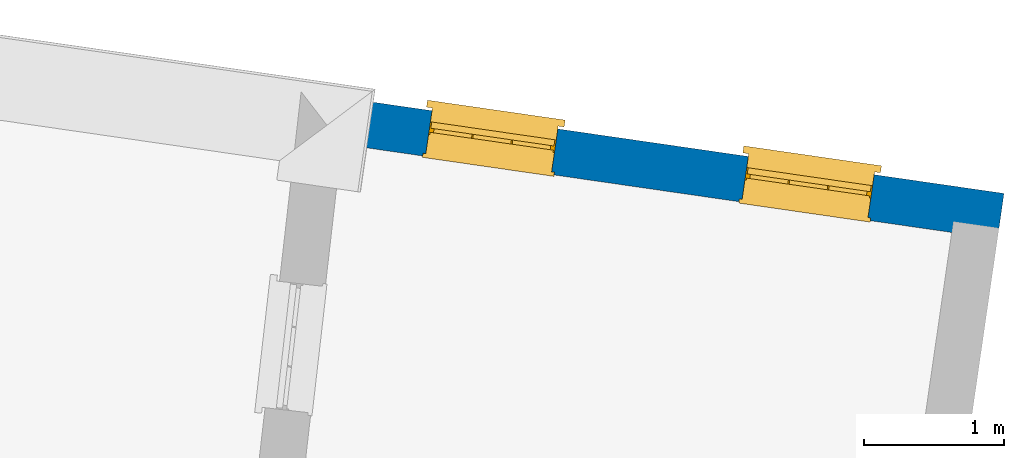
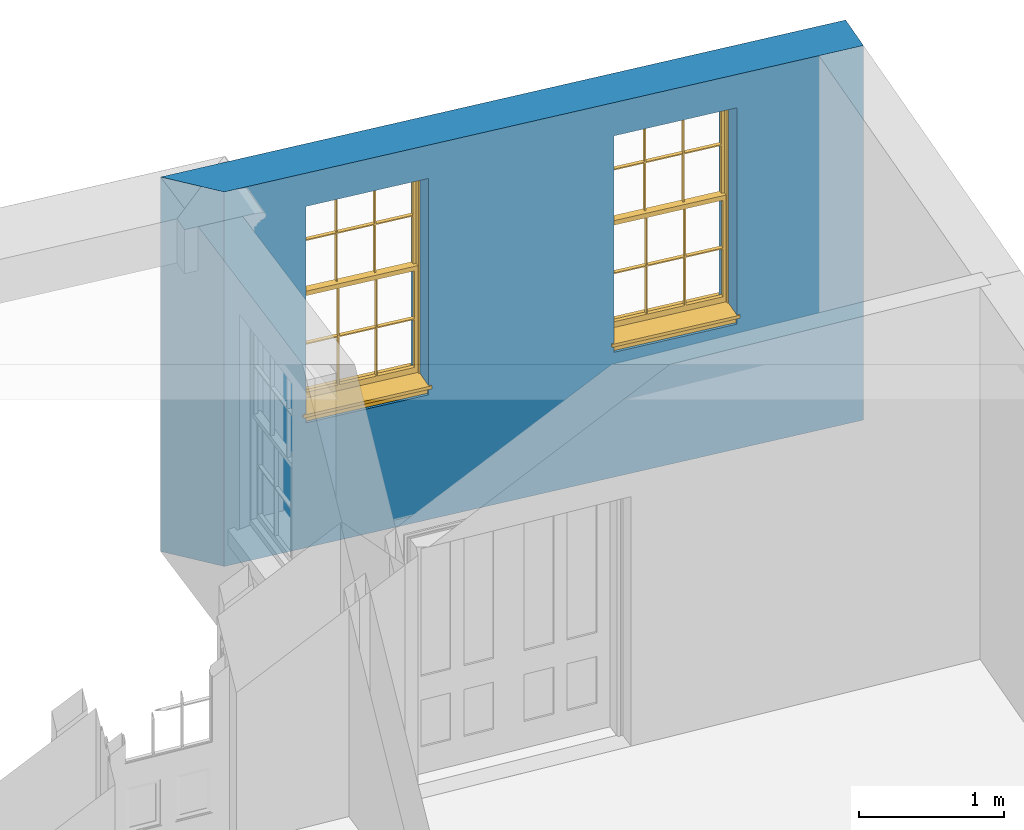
# One storey, part 7 of 8: 2 windows, 1 wall, 2 openings.
"""IFC4 building model written with IfcOpenShell, lengths in metres."""

from ifc_helpers import new_model, si_unit, frame, origin, origin_with_axes, place, context, subcontext, project, spatial, polyline, outline, extrude, faceted_brep, source, transform, mapped, material, layer, layer_set, layer_usage, type_object, type_shapes, element, fill, save


model = new_model("IFC4")

# Units and contexts
model_context = context("Model", 3, world=origin_with_axes())
body_context = subcontext(model_context, "Body", "Model", "MODEL_VIEW")
ifc_project = project(units=[si_unit("PLANEANGLEUNIT", "RADIAN"), si_unit("MASSUNIT", "GRAM", prefix="KILO"), si_unit("FORCEUNIT", "NEWTON", prefix="KILO"), si_unit("LENGTHUNIT", "METRE"), si_unit("AREAUNIT", "SQUARE_METRE"), si_unit("VOLUMEUNIT", "CUBIC_METRE")], contexts=[model_context, model_context])

# Sites, building, storey
site_1_placement = place(None, origin_with_axes())
site_1 = spatial("IfcSite", under=ifc_project, at=site_1_placement, Name="Tamar")
site_2_placement = place(site_1_placement, origin_with_axes())
site_2 = spatial("IfcSite", under=site_1, at=site_2_placement, Name="Site plot-31", CompositionType="ELEMENT")
building_placement = place(None, origin_with_axes())
building = spatial("IfcBuilding", under=site_2, at=building_placement, Name="Building plot-31", CompositionType="ELEMENT")
storey_placement = place(None, frame((0.0, 0.0, 25.5), z_axis=(0.0, 0.0, 1.0), x_axis=(1.0, 0.0, 0.0)))
storey = spatial("IfcBuildingStorey", under=building, at=storey_placement, Name="plot-31 0", CompositionType="ELEMENT", Elevation=25.5)

# Wall, openings, windows
ifc_material = material(Name="Masonry")
ifc_layer = layer(ifc_material, 0.33, ventilated=False)
ifc_layer_set = layer_set([ifc_layer], Name="exterior_0.08_0.25")
ifc_layer_usage = layer_usage(ifc_layer_set, "AXIS2", "POSITIVE", -0.25)
wall_type = type_object("IfcWallType", Name="exterior_0.08_0.25", PredefinedType="SOLIDWALL", material=ifc_layer_set)
wall_placement = place(storey_placement, frame((300.849616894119, 263.500744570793, 0.0), z_axis=(0.0, 0.0, 1.0), x_axis=(-0.989705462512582, 0.14311917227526, 0.0)))
wall = element("IfcWall", 1, at=wall_placement, inside=storey, type_object=wall_type, material=ifc_layer_usage, Name="exterior", context=body_context, shape_type="SweptSolid", body=[
    extrude(outline(polyline([(-0.250000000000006, 0.0799999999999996), (-0.249999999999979, -0.250000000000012), (4.83208334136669, -0.250000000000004), (4.49207579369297, 0.0800000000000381), (-0.250000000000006, 0.0799999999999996)])), origin_with_axes(), (0.0, 0.0, 1.0), 3.15),
])
opening_1_placement = place(wall_placement, frame((0.688625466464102, 0.0, 1.05)))
opening_1 = element("IfcOpeningElement", 2, at=opening_1_placement, cuts=wall, Name="My Opening", ObjectType="Opening", context=body_context, shape_type="SweptSolid", body=[
    extrude(outline(polyline([(0.0, -0.269999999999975), (0.90999999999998, -0.270000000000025), (0.909999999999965, 1.09999999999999), (-1.40998324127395e-14, 1.10000000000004), (0.0, -0.269999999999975)])), origin_with_axes(), (0.0, 0.0, 1.0), 1.82),
])
opening_2_placement = place(wall_placement, frame((2.97587639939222, 0.0, 1.05)))
opening_2 = element("IfcOpeningElement", 3, at=opening_2_placement, cuts=wall, Name="My Opening", ObjectType="Opening", context=body_context, shape_type="SweptSolid", body=[
    extrude(outline(polyline([(0.0, -0.269999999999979), (0.909999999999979, -0.27000000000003), (0.909999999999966, 1.09999999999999), (-1.46549439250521e-14, 1.10000000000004), (0.0, -0.269999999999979)])), origin_with_axes(), (0.0, 0.0, 1.0), 1.82),
])
window_type = type_object("IfcWindowType", Name="sash_big", PartitioningType="DOUBLE_PANEL_HORIZONTAL", PredefinedType="NOTDEFINED")
shared_shape = source(origin(), body_context, "Body", "Brep", [
    faceted_brep([(0.033125, 0.145, 0.975209), (0.01, 0.145, 0.975209), (0.033125, 0.145, 1.376042), (0.876875, 0.145, 0.975209), (0.876875, 0.145, 1.376042), (0.9, 0.145, 0.975209), (0.876875, 0.145, 1.386042), (0.876875, 0.145, 1.786875), (0.9, 0.145, 1.81), (0.033125, 0.145, 1.786875), (0.033125, 0.145, 1.386042), (0.01, 0.145, 1.81), (0.876875, 0.115, 1.376042), (0.876875, 0.115, 0.975209), (0.9, 0.115, 0.937083), (0.033125, 0.115, 1.786875), (0.01, 0.115, 1.81), (0.033125, 0.115, 1.386042), (0.01, 0.115, 0.937083), (0.033125, 0.115, 0.975209), (0.033125, 0.115, 1.376042), (0.876875, 0.115, 1.786875), (0.876875, 0.115, 1.386042), (0.9, 0.115, 1.81), (0.033125, 0.145, 0.937083), (0.01, 0.145, 0.937083), (0.033125, 0.145, 0.53625), (0.876875, 0.145, 0.937083), (0.876875, 0.145, 0.53625), (0.9, 0.145, 0.937083), (0.876875, 0.145, 0.52625), (0.876875, 0.145, 0.125417), (0.9, 0.145, 0.077167), (0.033125, 0.145, 0.125417), (0.033125, 0.145, 0.52625), (0.01, 0.145, 0.077167), (-0.0425, 0.0, 0.01), (-0.0425, -0.05, 0.001667), (0.0, 0.0, 0.01), (0.9525, 0.0, 0.01), (0.91, 0.0, 0.01), (0.9525, -0.05, 0.001667), (-0.02, 0.33, 0.077167), (0.0, 0.33, 0.077167), (-0.02, 0.36, 0.077167), (0.0, 0.19, 0.077167), (0.01, 0.19, 0.077167), (0.91, 0.19, 0.077167), (0.91, 0.33, 0.077167), (0.9, 0.19, 0.077167), (0.93, 0.33, 0.077167), (0.93, 0.36, 0.077167), (0.01, 0.175, 0.975209), (0.9, 0.175, 0.975209), (0.876875, 0.175, 0.125417), (0.876875, 0.175, 0.52625), (0.9, 0.175, 0.077167), (0.876875, 0.175, 0.53625), (0.876875, 0.175, 0.937083), (0.033125, 0.175, 0.125417), (0.01, 0.175, 0.077167), (0.033125, 0.175, 0.52625), (0.033125, 0.175, 0.937083), (0.033125, 0.175, 0.53625), (-0.02, 0.33, 0.052167), (-0.02, 0.36, 0.052167), (0.93, 0.36, 0.052167), (0.93, 0.33, 0.052167), (0.91, 0.33, 0.052167), (0.0, 0.33, 0.052167), (0.91, 0.1, 0.026667), (0.0, 0.1, 0.026667), (-0.0425, -0.05, -0.123333), (0.9525, -0.05, -0.123333), (-0.0425, 0.0, -0.123333), (0.9525, 0.0, -0.123333), (0.01, 0.19, 1.81), (0.9, 0.19, 1.81), (0.0, 0.19, 1.82), (0.91, 0.19, 1.82), (0.01, 0.1, 0.077167), (0.9, 0.1, 0.077167), (0.592292, 0.145, 0.125417), (0.592292, 0.175, 0.125417), (0.317708, 0.175, 0.125417), (0.317708, 0.145, 0.125417), (0.592292, 0.145, 0.53625), (0.317708, 0.145, 0.53625), (0.317708, 0.145, 0.52625), (0.592292, 0.145, 0.52625), (0.592292, 0.175, 0.53625), (0.317708, 0.175, 0.53625), (0.592292, 0.115, 1.386042), (0.592292, 0.145, 1.386042), (0.317708, 0.145, 1.386042), (0.317708, 0.115, 1.386042), (0.317708, 0.115, 1.376042), (0.592292, 0.115, 1.376042), (0.317708, 0.145, 1.376042), (0.592292, 0.145, 1.376042), (0.602292, 0.115, 1.376042), (0.592292, 0.115, 0.975209), (0.602292, 0.115, 0.975209), (0.602292, 0.145, 0.975209), (0.592292, 0.145, 0.975209), (0.602292, 0.145, 1.376042), (0.602292, 0.175, 0.53625), (0.602292, 0.145, 0.53625), (0.317708, 0.175, 0.52625), (0.307708, 0.175, 0.125417), (0.307708, 0.175, 0.52625), (0.602292, 0.175, 0.52625), (0.602292, 0.175, 0.125417), (0.592292, 0.175, 0.52625), (0.307708, 0.175, 0.53625), (0.317708, 0.175, 0.937083), (0.307708, 0.175, 0.937083), (0.602292, 0.175, 0.937083), (0.592292, 0.175, 0.937083), (0.307708, 0.145, 0.52625), (0.307708, 0.145, 0.125417), (0.307708, 0.145, 0.53625), (0.307708, 0.145, 0.937083), (0.592292, 0.145, 0.937083), (0.317708, 0.145, 0.937083), (0.602292, 0.145, 0.937083), (0.602292, 0.145, 0.52625), (0.602292, 0.145, 0.125417), (0.307708, 0.115, 1.386042), (0.307708, 0.115, 1.376042), (0.307708, 0.115, 0.975209), (0.317708, 0.115, 0.975209), (0.317708, 0.115, 1.786875), (0.307708, 0.115, 1.786875), (0.602292, 0.115, 1.786875), (0.592292, 0.115, 1.786875), (0.602292, 0.115, 1.386042), (0.602292, 0.145, 1.386042), (0.307708, 0.145, 1.386042), (0.307708, 0.145, 1.786875), (0.317708, 0.145, 1.786875), (0.592292, 0.145, 1.786875), (0.602292, 0.145, 1.786875), (0.307708, 0.145, 1.376042), (0.317708, 0.145, 0.975209), (0.307708, 0.145, 0.975209), (0.91, 0.1, 1.82), (0.9, 0.1, 1.81), (0.01, 0.1, 1.81), (0.0, 0.1, 1.82), (0.91, 0.0, 0.0), (0.0, 0.0, 0.0), (0.91, 0.33, 0.0), (0.0, 0.33, 0.0)], [[[0, 1, 2]], [[3, 4, 5]], [[6, 7, 8]], [[9, 10, 11]], [[12, 13, 14]], [[15, 16, 17]], [[18, 19, 20]], [[21, 22, 23]], [[24, 25, 26]], [[27, 28, 29]], [[30, 31, 32]], [[33, 34, 35]], [[14, 27, 29]], [[25, 24, 18]], [[36, 37, 38]], [[39, 40, 41]], [[42, 43, 44]], [[45, 46, 43]], [[47, 48, 49]], [[50, 51, 48]], [[1, 0, 52]], [[5, 53, 3]], [[54, 55, 56]], [[57, 58, 53]], [[59, 60, 61]], [[62, 63, 52]], [[48, 43, 46, 49]], [[51, 44, 43, 48]], [[64, 42, 44, 65]], [[65, 44, 51, 66]], [[66, 51, 50, 67]], [[65, 66, 68, 69]], [[60, 56, 49, 46]], [[70, 71, 38, 40]], [[37, 41, 40, 38]], [[37, 72, 73, 41]], [[74, 75, 73, 72]], [[8, 11, 76, 77]], [[76, 78, 79, 77]], [[32, 35, 80, 81]], [[81, 80, 71, 70]], [[82, 83, 84, 85]], [[86, 87, 88, 89]], [[86, 90, 91, 87]], [[92, 93, 94, 95]], [[92, 95, 96, 97]], [[96, 98, 99, 97]], [[100, 97, 101, 102]], [[103, 104, 99, 105]], [[97, 99, 104, 101]], [[102, 103, 105, 100]], [[28, 57, 106, 107]], [[108, 84, 109, 110]], [[111, 112, 83, 113]], [[114, 110, 61, 63]], [[90, 113, 108, 91]], [[115, 91, 114, 116]], [[117, 106, 90, 118]], [[111, 106, 57, 55]], [[119, 110, 109, 120]], [[34, 61, 110, 119]], [[89, 113, 83, 82]], [[88, 108, 113, 89]], [[85, 84, 108, 88]], [[121, 114, 63, 26]], [[122, 116, 114, 121]], [[123, 118, 90, 86]], [[87, 91, 115, 124]], [[107, 106, 117, 125]], [[126, 111, 55, 30]], [[127, 112, 111, 126]], [[126, 30, 28, 107]], [[88, 119, 120, 85]], [[126, 89, 82, 127]], [[125, 123, 86, 107]], [[121, 26, 34, 119]], [[124, 122, 121, 87]], [[128, 17, 20, 129]], [[96, 129, 130, 131]], [[132, 133, 128, 95]], [[134, 135, 92, 136]], [[100, 12, 22, 136]], [[137, 6, 4, 105]], [[94, 138, 139, 140]], [[137, 93, 141, 142]], [[99, 98, 94, 93]], [[143, 2, 10, 138]], [[144, 145, 143, 98]], [[129, 143, 145, 130]], [[20, 2, 143, 129]], [[131, 144, 98, 96]], [[128, 138, 10, 17]], [[133, 139, 138, 128]], [[135, 141, 93, 92]], [[95, 94, 140, 132]], [[22, 6, 137, 136]], [[136, 137, 142, 134]], [[100, 105, 4, 12]], [[107, 86, 89, 126]], [[106, 111, 113, 90]], [[91, 108, 110, 114]], [[87, 121, 119, 88]], [[97, 100, 136, 92]], [[129, 96, 95, 128]], [[98, 143, 138, 94]], [[105, 99, 93, 137]], [[131, 101, 104, 144]], [[124, 115, 118, 123]], [[132, 140, 141, 135]], [[120, 109, 59, 33]], [[15, 9, 139, 133]], [[134, 142, 7, 21]], [[31, 54, 112, 127]], [[36, 74, 72, 37]], [[39, 41, 73, 75]], [[18, 14, 101, 131]], [[23, 16, 132, 135]], [[83, 56, 60, 84]], [[52, 53, 118, 115]], [[53, 52, 144, 104]], [[11, 8, 141, 140]], [[14, 18, 124, 123]], [[2, 1, 11, 10]], [[8, 5, 4, 6]], [[57, 53, 56, 55]], [[60, 52, 63, 61]], [[26, 25, 35, 34]], [[32, 29, 28, 30]], [[14, 23, 22, 12]], [[18, 20, 17, 16]], [[19, 0, 2, 20]], [[17, 10, 9, 15]], [[12, 4, 3, 13]], [[21, 7, 6, 22]], [[27, 58, 57, 28]], [[30, 55, 54, 31]], [[33, 59, 61, 34]], [[26, 63, 62, 24]], [[5, 8, 77, 53]], [[76, 11, 1, 52]], [[46, 45, 78, 76]], [[49, 77, 79, 47]], [[70, 146, 147, 81]], [[71, 80, 148, 149]], [[19, 130, 145, 0]], [[102, 13, 3, 103]], [[116, 122, 24, 62]], [[29, 32, 81, 14]], [[80, 35, 25, 18]], [[60, 46, 76, 52]], [[77, 49, 56, 53]], [[23, 14, 81, 147]], [[16, 148, 80, 18]], [[35, 85, 120]], [[120, 33, 35]], [[127, 82, 32]], [[32, 31, 127]], [[32, 82, 85, 35]], [[102, 101, 14]], [[14, 13, 102]], [[18, 131, 130]], [[130, 19, 18]], [[134, 21, 23]], [[23, 135, 134]], [[16, 15, 133]], [[133, 132, 16]], [[11, 140, 139]], [[139, 9, 11]], [[142, 141, 8]], [[8, 7, 142]], [[23, 147, 148, 16]], [[146, 149, 148, 147]], [[52, 115, 116]], [[116, 62, 52]], [[118, 53, 117]], [[58, 117, 53]], [[27, 125, 117, 58]], [[56, 83, 112]], [[112, 54, 56]], [[109, 84, 60]], [[60, 59, 109]], [[125, 27, 14]], [[14, 123, 125]], [[122, 124, 18]], [[18, 24, 122]], [[145, 144, 52]], [[52, 0, 145]], [[103, 3, 53]], [[53, 104, 103]], [[79, 78, 149, 146]], [[78, 45, 71, 149]], [[146, 70, 47, 79]], [[150, 75, 74, 151]], [[68, 66, 67]], [[48, 68, 67, 50]], [[69, 64, 65]], [[42, 64, 69, 43]], [[69, 68, 152, 153]], [[70, 68, 48, 47]], [[150, 152, 68, 70]], [[43, 69, 71, 45]], [[69, 153, 151, 71]], [[152, 150, 151, 153]], [[38, 151, 74, 36]], [[71, 151, 38]], [[39, 75, 150, 40]], [[40, 150, 70]]]),
])
type_shapes(window_type, [shared_shape])
window_1_placement = place(storey_placement, frame((300.206722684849, 263.866520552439, 1.05), z_axis=(0.0, 0.0, 1.0), x_axis=(-0.900631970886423, 0.130238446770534, 0.0)))
window_1 = element("IfcWindow", 4, at=window_1_placement, inside=storey, type_object=window_type, Name="kitchen street window", OverallHeight=1.82, OverallWidth=0.91, context=body_context, shape_type="MappedRepresentation", body=[
    mapped(shared_shape, transform((0.0, 0.0, 0.0), scale=1.0)),
])
fill(opening_1, window_1)
window_2_placement = place(storey_placement, frame((297.943017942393, 264.193870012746, 1.05), z_axis=(0.0, 0.0, 1.0), x_axis=(-0.900631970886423, 0.130238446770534, 0.0)))
window_2 = element("IfcWindow", 5, at=window_2_placement, inside=storey, type_object=window_type, Name="kitchen street window", OverallHeight=1.82, OverallWidth=0.91, context=body_context, shape_type="MappedRepresentation", body=[
    mapped(shared_shape, transform((0.0, 0.0, 0.0), scale=1.0)),
])
fill(opening_2, window_2)

save(model, "model.ifc")
